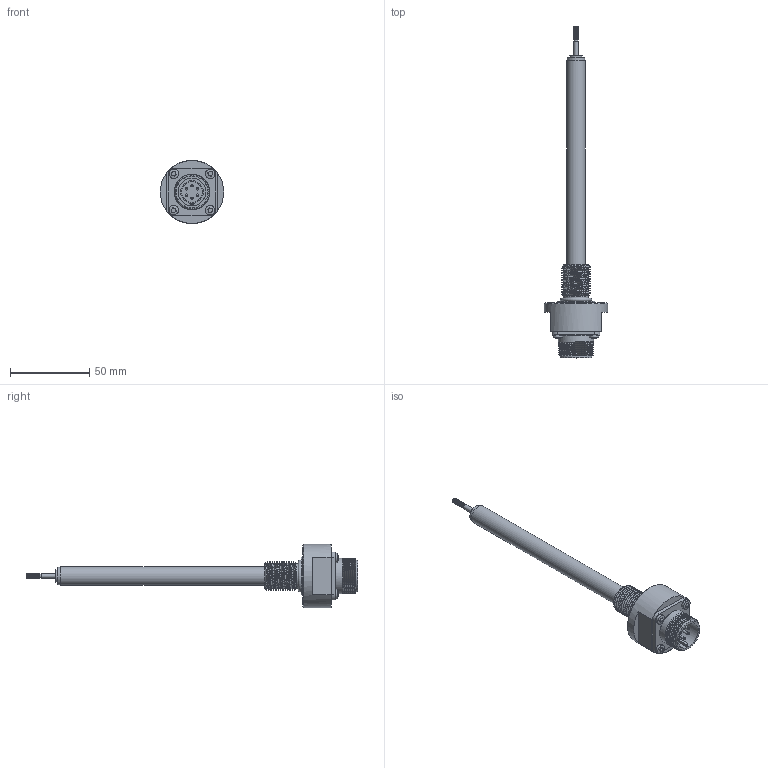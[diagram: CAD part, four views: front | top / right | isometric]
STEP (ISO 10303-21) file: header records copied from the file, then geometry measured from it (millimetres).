
FILE_DESCRIPTION( ( 'STEP AP214' ), '1' );
FILE_NAME( 'N:/Engineering/CAD_Solid/LVDT/HYD/Kunden-3D-Modell/SM50-HYD-M-18-S.stp', '2011-12-14T13:50:31', ( ' ' ), ( ' ' ), 'XStep 1.0', ' ', ' ' );
FILE_SCHEMA( ( 'CONFIG_CONTROL_DESIGN) ( )' ) );
Length unit declared in the file: metre
Products named in the file (17): 1; 2; 3; 4; 5; 6; 7; 8; 9; 10; 11; 12; 13; 14; 15; 16; 17
Bounding box: 40 x 209.9 x 40 mm (x, y, z)
Surface area: 18208.4 mm2
Topology: 1 solids, 135 shells, 143 faces, 639 edges, 594 vertices
Faces by surface type: plane 80, cylinder 37, bspline 14, cone 7, sphere 4, torus 1
Full cylindrical faces by diameter (mm): 1.6 x6, 2.4 x1, 3 x1, 4 x1, 6 x4, 8 x1, 11 x1, 12 x1, 15.8 x1, 17.6 x1, 20.2 x1, 22.3 x7, 24 x1, 40 x1
Entity records: 18285 total; most frequent: CARTESIAN_POINT 12825, DIRECTION 1027, ORIENTED_EDGE 566, EDGE_CURVE 566, VERTEX_POINT 566, AXIS2_PLACEMENT_3D 382, LINE 263, VECTOR 263
